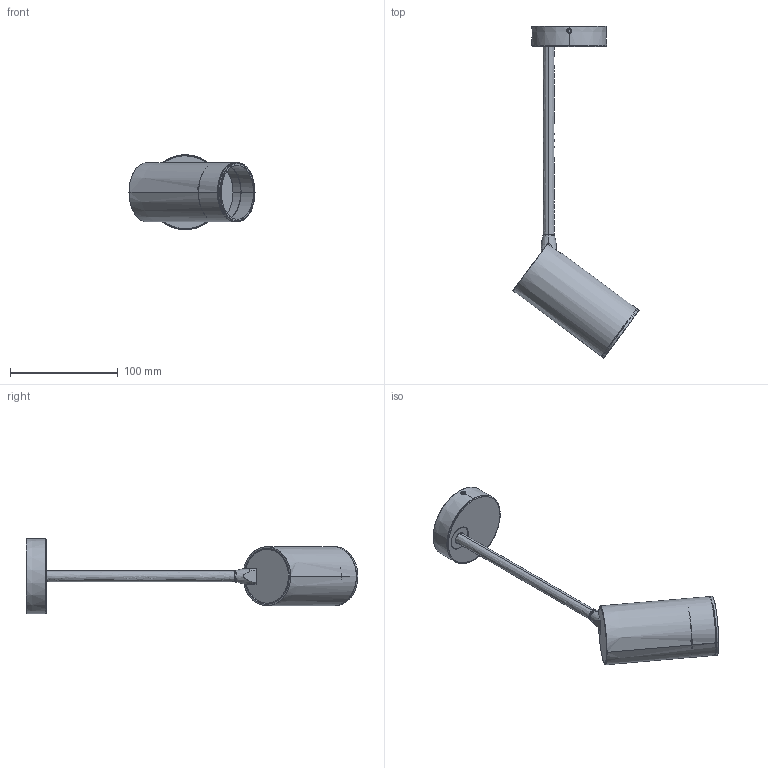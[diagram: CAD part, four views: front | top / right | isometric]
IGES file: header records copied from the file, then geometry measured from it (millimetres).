
Start section: SolidWorks IGES file using analytic representation for surfaces
Global section: file name: Z:\Modele 3D_WWW\_KOLEKCJE_WWW\MONO\MONO-BELKA-LONG\MONO-LONG-I-S-GOLD-7670-7673\MONO-LONG-I-S-GOLD-7670-7673.IGS; native system: SolidWorks 2021; preprocessor: SolidWorks 2021; author: gabriela.tworek; date: 210726.133500; units: millimetre
Bounding box: 117.09 x 308.37 x 70.05 mm (x, y, z)
Surface area: 85949.1 mm2 (no closed solid volume)
Topology: 0 solids, 0 shells, 298 faces, 5756 edges, 5754 vertices
Faces by surface type: revolution 198, bspline 100
